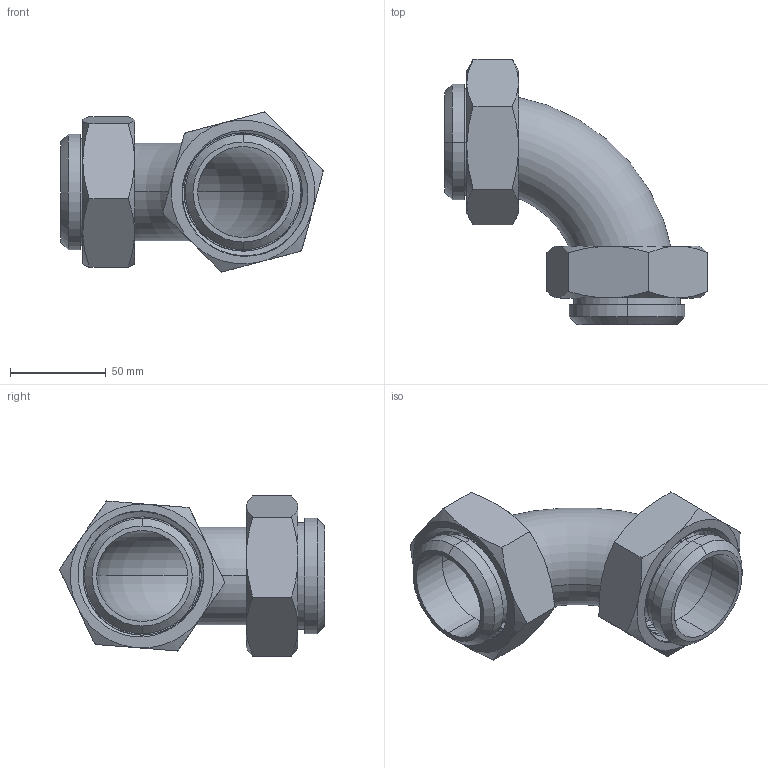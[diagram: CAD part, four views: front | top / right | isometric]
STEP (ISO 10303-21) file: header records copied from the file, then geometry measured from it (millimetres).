
FILE_DESCRIPTION (( 'STEP AP214' ), '1' );
FILE_NAME ('2E 2.0.STEP', '2025-08-26T20:02:50', ( '' ), ( '' ), 'SwSTEP 2.0', 'SolidWorks 2023', '' );
FILE_SCHEMA (( 'AUTOMOTIVE_DESIGN' ));
Length unit declared in the file: millimetre
Products named in the file (4): 2E 2.0; 13H2.0; 2WCL2.0; 14PR 2.0 REV2
Assembly tree (5 placements, depth 2):
  2E 2.0
    13H2.0  x2
    2WCL2.0
    14PR 2.0 REV2  x2
Bounding box: 137.25 x 138.54 x 83.71 mm (x, y, z)
Volume: 144609.8 mm3; surface area: 93955.7 mm2
Topology: 5 solids, 5 shells, 154 faces, 378 edges, 240 vertices
Faces by surface type: plane 56, cylinder 46, cone 40, bspline 8, torus 4
Entity records: 5692 total; most frequent: CARTESIAN_POINT 3768, ORIENTED_EDGE 390, DIRECTION 372, EDGE_CURVE 195, AXIS2_PLACEMENT_3D 154, VERTEX_POINT 124, EDGE_LOOP 89, FACE_OUTER_BOUND 80
